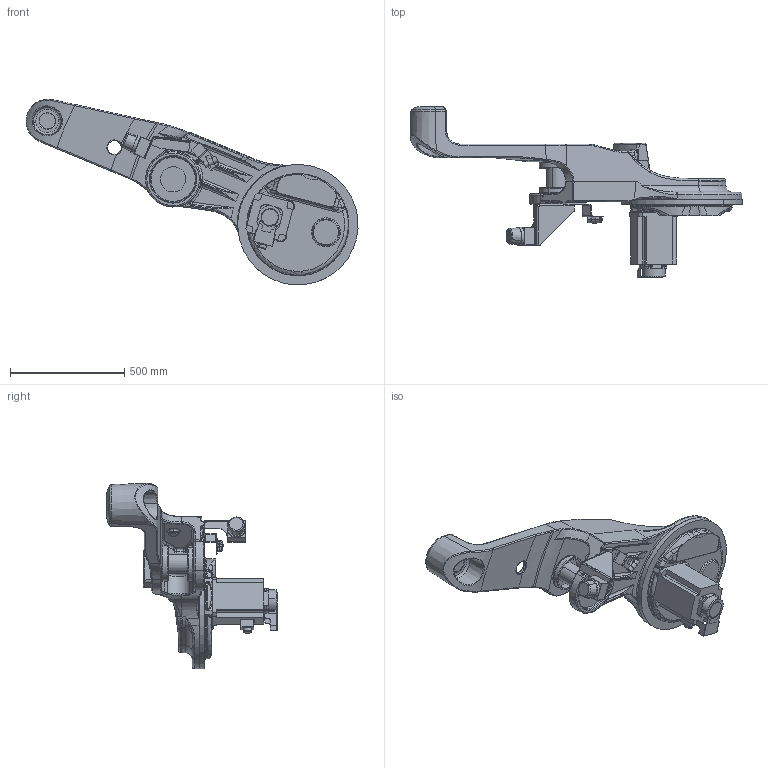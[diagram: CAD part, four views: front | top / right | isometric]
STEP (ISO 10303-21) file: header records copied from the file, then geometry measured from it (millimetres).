
FILE_DESCRIPTION(('CATIA V5 STEP Exchange','CAx-IF Rec.Pracs.--- Model Styling and Organization---1.2---2011-12-15','CAx-IF Rec.Pracs.--- Geometric and Assembly Validation Properties ---3.1---2011-10-19'),'2;1');
FILE_NAME('Z:\ROBOT\CATIA06\products\MC1000DL\Light_model\Step\070_FixedHinge_MC1000DL-02.stp','2016-12-26T04:07:01+00:00',('none'),('none'),'Version 5-6 Release 2012','CATIA V5 STEP AP214','none');
FILE_SCHEMA(('AUTOMOTIVE_DESIGN { 1 0 10303 214 1 1 1 1 }'));
Products named in the file (1): 070_FixedHinge_MC1000DL-02
Bounding box: 1450.45 x 743.5 x 810.81 mm (x, y, z)
Volume: 46946376.5 mm3; surface area: 3203535.2 mm2
Topology: 15 solids, 20 shells, 1654 faces, 4072 edges, 2437 vertices
Faces by surface type: bspline 582, plane 450, cylinder 339, torus 185, cone 75, sphere 23
Entity records: 84882 total; most frequent: CARTESIAN_POINT 52448, ORIENTED_EDGE 8002, EDGE_CURVE 4009, DIRECTION 3876, VERTEX_POINT 2437, B_SPLINE_CURVE_WITH_KNOTS 1921, AXIS2_PLACEMENT_3D 1852, EDGE_LOOP 1724
